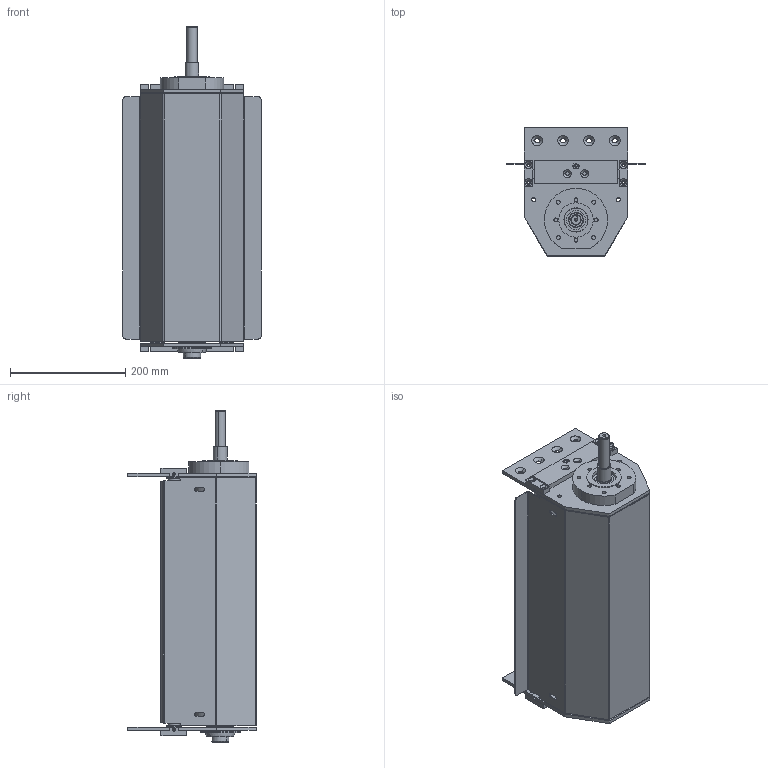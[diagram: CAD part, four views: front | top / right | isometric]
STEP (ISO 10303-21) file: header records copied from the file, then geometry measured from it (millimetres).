
FILE_DESCRIPTION (( 'STEP AP203' ), '1' );
FILE_NAME ('084.095.KCS.44.400.STEP', '2019-07-30T08:19:04', ( '' ), ( '' ), 'SwSTEP 2.0', 'SolidWorks 2018', '' );
FILE_SCHEMA (( 'CONFIG_CONTROL_DESIGN' ));
Length unit declared in the file: millimetre
Products named in the file (18): 084.814.002-1; 084.802.020; 084.802.048; 084.817.065_Default<A macchina>; 084.810.003; 084.802.047; CUSCINETTI A SFERE_6004-2RS; 084.817.064; 084.802.004-1; 084.802.021; 084.817.063; 084.095.KCS.44.400; 084.812.003; 084.802.010; 084.802.046; 084.817.066; 084.802.003; 084.802.012_Solo centrale
Assembly tree (31 placements, depth 2):
  084.095.KCS.44.400
    084.817.063  x2
    084.817.065_Default<A macchina>
    084.817.066
    084.817.064  x2
    084.802.010
    084.802.021
    084.814.002-1
    084.810.003  x2
    084.802.004-1  x4
    084.802.020
    084.812.003
    084.802.003  x2
    CUSCINETTI A SFERE_6004-2RS  x4
    084.802.048  x4
    084.802.046
    084.802.047
    084.802.012_Solo centrale  x2
Bounding box: 240 x 223 x 577 mm (x, y, z)
Volume: 2935391.2 mm3; surface area: 1448195.8 mm2
Topology: 33 solids, 33 shells, 1029 faces, 2547 edges, 1641 vertices
Faces by surface type: plane 439, cylinder 374, cone 138, torus 68, sphere 10
Entity records: 21700 total; most frequent: DIRECTION 3602, CARTESIAN_POINT 3388, ORIENTED_EDGE 3144, EDGE_CURVE 1572, AXIS2_PLACEMENT_3D 1376, VERTEX_POINT 1014, VECTOR 850, LINE 850
